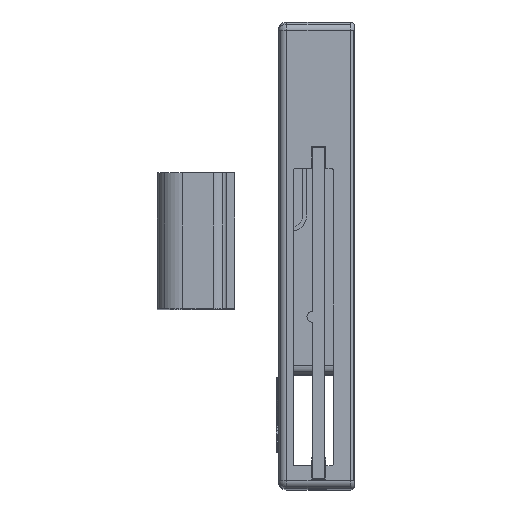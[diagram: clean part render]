
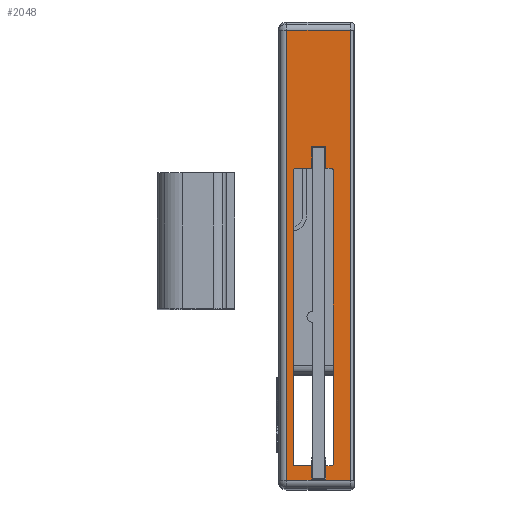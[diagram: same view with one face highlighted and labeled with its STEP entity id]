
A CAD part, top view. The second image highlights one B-rep face of the part: STEP entity #2048.
In plain terms, the highlighted planar face has unit normal (0, 0, 1).
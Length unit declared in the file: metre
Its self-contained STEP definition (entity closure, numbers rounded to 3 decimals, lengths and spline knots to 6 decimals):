
#2048=ADVANCED_FACE('52:450',(#7322,#7323),#7324,.T.);
#7322=FACE_BOUND('',#17791,.T.);
#7323=FACE_OUTER_BOUND('',#17792,.T.);
#7324=PLANE('',#17793);
#17791=EDGE_LOOP('',(#49963,#49964,#49965,#49966,#49967,#49968,#49969,#49970,#49971,#49972,#49973,#49974,#49975,#49976,#49977,#49978,#49979,#49980,#49981,#49982));
#17792=EDGE_LOOP('',(#49983,#49984,#49985,#49986));
#17793=AXIS2_PLACEMENT_3D('',#49987,#49988,#49989);
#49963=ORIENTED_EDGE('',*,*,#67715,.T.);
#49964=ORIENTED_EDGE('',*,*,#67716,.T.);
#49965=ORIENTED_EDGE('',*,*,#67717,.T.);
#49966=ORIENTED_EDGE('',*,*,#67718,.T.);
#49967=ORIENTED_EDGE('',*,*,#67719,.T.);
#49968=ORIENTED_EDGE('',*,*,#61983,.T.);
#49969=ORIENTED_EDGE('',*,*,#67720,.T.);
#49970=ORIENTED_EDGE('',*,*,#67721,.T.);
#49971=ORIENTED_EDGE('',*,*,#61987,.T.);
#49972=ORIENTED_EDGE('',*,*,#67711,.T.);
#49973=ORIENTED_EDGE('',*,*,#67722,.T.);
#49974=ORIENTED_EDGE('',*,*,#67723,.T.);
#49975=ORIENTED_EDGE('',*,*,#67724,.T.);
#49976=ORIENTED_EDGE('',*,*,#67713,.F.);
#49977=ORIENTED_EDGE('',*,*,#67725,.F.);
#49978=ORIENTED_EDGE('',*,*,#61975,.F.);
#49979=ORIENTED_EDGE('',*,*,#67726,.T.);
#49980=ORIENTED_EDGE('',*,*,#61977,.F.);
#49981=ORIENTED_EDGE('',*,*,#67727,.F.);
#49982=ORIENTED_EDGE('',*,*,#67728,.T.);
#49983=ORIENTED_EDGE('',*,*,#67729,.F.);
#49984=ORIENTED_EDGE('',*,*,#61874,.F.);
#49985=ORIENTED_EDGE('',*,*,#61872,.F.);
#49986=ORIENTED_EDGE('',*,*,#67730,.F.);
#49987=CARTESIAN_POINT('',(0.005,0.018875,0.118295));
#49988=DIRECTION('',(0.0,-0.0,1.0));
#49989=DIRECTION('',(-0.0,-1.0,-0.0));
#61872=EDGE_CURVE('47:5230',#71593,#71579,#71595,.T.);
#61874=EDGE_CURVE('47:5227',#71579,#71598,#71599,.T.);
#61975=EDGE_CURVE('47:5197',#71788,#71784,#71790,.T.);
#61977=EDGE_CURVE('47:5203',#71791,#71794,#71795,.T.);
#61983=EDGE_CURVE('47:5050',#71800,#71804,#71806,.T.);
#61987=EDGE_CURVE('47:5101',#71808,#71812,#71814,.T.);
#67711=EDGE_CURVE('47:5095',#71812,#81504,#81506,.T.);
#67713=EDGE_CURVE('47:5221',#81507,#81509,#81510,.T.);
#67715=EDGE_CURVE('52:272',#81512,#81513,#81514,.T.);
#67716=EDGE_CURVE('52:804',#81513,#81515,#81516,.T.);
#67717=EDGE_CURVE('52:828',#81515,#81517,#81518,.T.);
#67718=EDGE_CURVE('47:5059',#81517,#81519,#81520,.F.);
#67719=EDGE_CURVE('47:5050',#81519,#71800,#81521,.T.);
#67720=EDGE_CURVE('47:5038',#71804,#81522,#81523,.F.);
#67721=EDGE_CURVE('47:5101',#81522,#71808,#81524,.T.);
#67722=EDGE_CURVE('52:831',#81504,#81525,#81526,.T.);
#67723=EDGE_CURVE('52:842',#81525,#81527,#81528,.T.);
#67724=EDGE_CURVE('52:878',#81527,#81509,#81529,.F.);
#67725=EDGE_CURVE('47:5197',#71784,#81507,#81530,.T.);
#67726=EDGE_CURVE('47:5200',#71788,#71794,#81531,.T.);
#67727=EDGE_CURVE('47:5203',#81532,#71791,#81533,.T.);
#67728=EDGE_CURVE('47:5206',#81532,#81512,#81534,.T.);
#67729=EDGE_CURVE('47:5224',#71598,#81535,#81536,.T.);
#67730=EDGE_CURVE('47:5233',#81535,#71593,#81537,.T.);
#71579=VERTEX_POINT('',#87338);
#71593=VERTEX_POINT('',#87355);
#71595=LINE('',#87357,#87358);
#71598=VERTEX_POINT('',#87362);
#71599=LINE('',#87363,#87364);
#71784=VERTEX_POINT('',#87603);
#71788=VERTEX_POINT('',#87608);
#71790=CIRCLE('',#87611,0.0005);
#71791=VERTEX_POINT('',#87612);
#71794=VERTEX_POINT('',#87616);
#71795=CIRCLE('',#87617,0.0005);
#71800=VERTEX_POINT('',#87623);
#71804=VERTEX_POINT('',#87628);
#71806=CIRCLE('',#87631,0.0005);
#71808=VERTEX_POINT('',#87633);
#71812=VERTEX_POINT('',#87638);
#71814=CIRCLE('',#87641,0.0005);
#81504=VERTEX_POINT('',#101037);
#81506=LINE('',#101040,#101041);
#81507=VERTEX_POINT('',#101042);
#81509=VERTEX_POINT('',#101045);
#81510=LINE('',#101046,#101047);
#81512=VERTEX_POINT('',#101050);
#81513=VERTEX_POINT('',#101051);
#81514=LINE('',#101052,#101053);
#81515=VERTEX_POINT('',#101054);
#81516=LINE('',#101055,#101056);
#81517=VERTEX_POINT('',#101057);
#81518=LINE('',#101058,#101059);
#81519=VERTEX_POINT('',#101060);
#81520=LINE('',#101061,#101062);
#81521=CIRCLE('',#101063,0.0005);
#81522=VERTEX_POINT('',#101064);
#81523=LINE('',#101065,#101066);
#81524=CIRCLE('',#101067,0.0005);
#81525=VERTEX_POINT('',#101068);
#81526=LINE('',#101069,#101070);
#81527=VERTEX_POINT('',#101071);
#81528=LINE('',#101072,#101073);
#81529=LINE('',#101074,#101075);
#81530=CIRCLE('',#101076,0.0005);
#81531=LINE('',#101077,#101078);
#81532=VERTEX_POINT('',#101079);
#81533=CIRCLE('',#101080,0.0005);
#81534=LINE('',#101081,#101082);
#81535=VERTEX_POINT('',#101083);
#81536=LINE('',#101084,#101085);
#81537=LINE('',#101086,#101087);
#87338=CARTESIAN_POINT('',(0.007,0.066875,0.118295));
#87355=CARTESIAN_POINT('',(0.007,-0.039125,0.118295));
#87357=CARTESIAN_POINT('',(0.007,0.018875,0.118295));
#87358=VECTOR('',#111313,1.0);
#87362=CARTESIAN_POINT('',(0.022,0.066875,0.118295));
#87363=CARTESIAN_POINT('',(0.005,0.066875,0.118295));
#87364=VECTOR('',#111315,1.0);
#87603=CARTESIAN_POINT('',(0.008646,-0.035479,0.118295));
#87608=CARTESIAN_POINT('',(0.0085,-0.035125,0.118295));
#87611=AXIS2_PLACEMENT_3D('',#111513,#111514,#111515);
#87612=CARTESIAN_POINT('',(0.008646,0.034229,0.118295));
#87616=CARTESIAN_POINT('',(0.0085,0.033875,0.118295));
#87617=AXIS2_PLACEMENT_3D('',#111517,#111518,#111519);
#87623=CARTESIAN_POINT('',(0.017854,0.034229,0.118295));
#87628=CARTESIAN_POINT('',(0.018,0.033875,0.118295));
#87631=AXIS2_PLACEMENT_3D('',#111529,#111530,#111531);
#87633=CARTESIAN_POINT('',(0.017854,-0.035479,0.118295));
#87638=CARTESIAN_POINT('',(0.0175,-0.035625,0.118295));
#87641=AXIS2_PLACEMENT_3D('',#111537,#111538,#111539);
#101037=CARTESIAN_POINT('',(0.01615,-0.035625,0.118295));
#101040=CARTESIAN_POINT('',(0.00975,-0.035625,0.118295));
#101041=VECTOR('',#123413,1.0);
#101042=CARTESIAN_POINT('',(0.009,-0.035625,0.118295));
#101045=CARTESIAN_POINT('',(0.01285,-0.035625,0.118295));
#101046=CARTESIAN_POINT('',(0.00975,-0.035625,0.118295));
#101047=VECTOR('',#123415,1.0);
#101050=CARTESIAN_POINT('',(0.01285,0.034375,0.118295));
#101051=CARTESIAN_POINT('',(0.01285,0.039525,0.118295));
#101052=CARTESIAN_POINT('',(0.01285,0.028375,0.118295));
#101053=VECTOR('',#123417,1.0);
#101054=CARTESIAN_POINT('',(0.01615,0.039525,0.118295));
#101055=CARTESIAN_POINT('',(0.00975,0.039525,0.118295));
#101056=VECTOR('',#123418,1.0);
#101057=CARTESIAN_POINT('',(0.01615,0.034375,0.118295));
#101058=CARTESIAN_POINT('',(0.01615,-0.008625,0.118295));
#101059=VECTOR('',#123419,1.0);
#101060=CARTESIAN_POINT('',(0.0175,0.034375,0.118295));
#101061=CARTESIAN_POINT('',(0.00975,0.034375,0.118295));
#101062=VECTOR('',#123420,1.0);
#101063=AXIS2_PLACEMENT_3D('',#123421,#123422,#123423);
#101064=CARTESIAN_POINT('',(0.018,-0.035125,0.118295));
#101065=CARTESIAN_POINT('',(0.018,-0.008375,0.118295));
#101066=VECTOR('',#123424,1.0);
#101067=AXIS2_PLACEMENT_3D('',#123425,#123426,#123427);
#101068=CARTESIAN_POINT('',(0.01615,-0.038775,0.118295));
#101069=CARTESIAN_POINT('',(0.01615,-0.008625,0.118295));
#101070=VECTOR('',#123428,1.0);
#101071=CARTESIAN_POINT('',(0.01285,-0.038775,0.118295));
#101072=CARTESIAN_POINT('',(0.00975,-0.038775,0.118295));
#101073=VECTOR('',#123429,1.0);
#101074=CARTESIAN_POINT('',(0.01285,0.027625,0.118295));
#101075=VECTOR('',#123430,1.0);
#101076=AXIS2_PLACEMENT_3D('',#123431,#123432,#123433);
#101077=CARTESIAN_POINT('',(0.0085,-0.008375,0.118295));
#101078=VECTOR('',#123434,1.0);
#101079=CARTESIAN_POINT('',(0.009,0.034375,0.118295));
#101080=AXIS2_PLACEMENT_3D('',#123435,#123436,#123437);
#101081=CARTESIAN_POINT('',(0.00975,0.034375,0.118295));
#101082=VECTOR('',#123438,1.0);
#101083=CARTESIAN_POINT('',(0.022,-0.039125,0.118295));
#101084=CARTESIAN_POINT('',(0.022,0.018875,0.118295));
#101085=VECTOR('',#123439,1.0);
#101086=CARTESIAN_POINT('',(0.005,-0.039125,0.118295));
#101087=VECTOR('',#123440,1.0);
#111313=DIRECTION('',(0.0,1.0,0.0));
#111315=DIRECTION('',(1.0,0.0,-0.0));
#111513=CARTESIAN_POINT('',(0.009,-0.035125,0.118295));
#111514=DIRECTION('',(0.0,0.0,1.0));
#111515=DIRECTION('',(-0.707,-0.707,0.0));
#111517=CARTESIAN_POINT('',(0.009,0.033875,0.118295));
#111518=DIRECTION('',(0.0,0.0,1.0));
#111519=DIRECTION('',(-0.707,0.707,0.0));
#111529=CARTESIAN_POINT('',(0.0175,0.033875,0.118295));
#111530=DIRECTION('',(0.0,0.0,-1.0));
#111531=DIRECTION('',(0.707,0.707,0.0));
#111537=CARTESIAN_POINT('',(0.0175,-0.035125,0.118295));
#111538=DIRECTION('',(0.0,-0.0,-1.0));
#111539=DIRECTION('',(0.707,-0.707,0.0));
#123413=DIRECTION('',(-1.0,0.0,0.0));
#123415=DIRECTION('',(1.0,-0.0,-0.0));
#123417=DIRECTION('',(0.0,1.0,0.0));
#123418=DIRECTION('',(1.0,-0.0,-0.0));
#123419=DIRECTION('',(0.0,-1.0,-0.0));
#123420=DIRECTION('',(-1.0,0.0,0.0));
#123421=CARTESIAN_POINT('',(0.0175,0.033875,0.118295));
#123422=DIRECTION('',(0.0,0.0,-1.0));
#123423=DIRECTION('',(0.707,0.707,0.0));
#123424=DIRECTION('',(0.0,1.0,0.0));
#123425=CARTESIAN_POINT('',(0.0175,-0.035125,0.118295));
#123426=DIRECTION('',(0.0,-0.0,-1.0));
#123427=DIRECTION('',(0.707,-0.707,0.0));
#123428=DIRECTION('',(0.0,-1.0,-0.0));
#123429=DIRECTION('',(-1.0,0.0,0.0));
#123430=DIRECTION('',(0.0,-1.0,-0.0));
#123431=CARTESIAN_POINT('',(0.009,-0.035125,0.118295));
#123432=DIRECTION('',(0.0,0.0,1.0));
#123433=DIRECTION('',(-0.707,-0.707,0.0));
#123434=DIRECTION('',(0.0,1.0,0.0));
#123435=CARTESIAN_POINT('',(0.009,0.033875,0.118295));
#123436=DIRECTION('',(0.0,0.0,1.0));
#123437=DIRECTION('',(-0.707,0.707,0.0));
#123438=DIRECTION('',(1.0,0.0,-0.0));
#123439=DIRECTION('',(-0.0,-1.0,-0.0));
#123440=DIRECTION('',(-1.0,-0.0,0.0));
